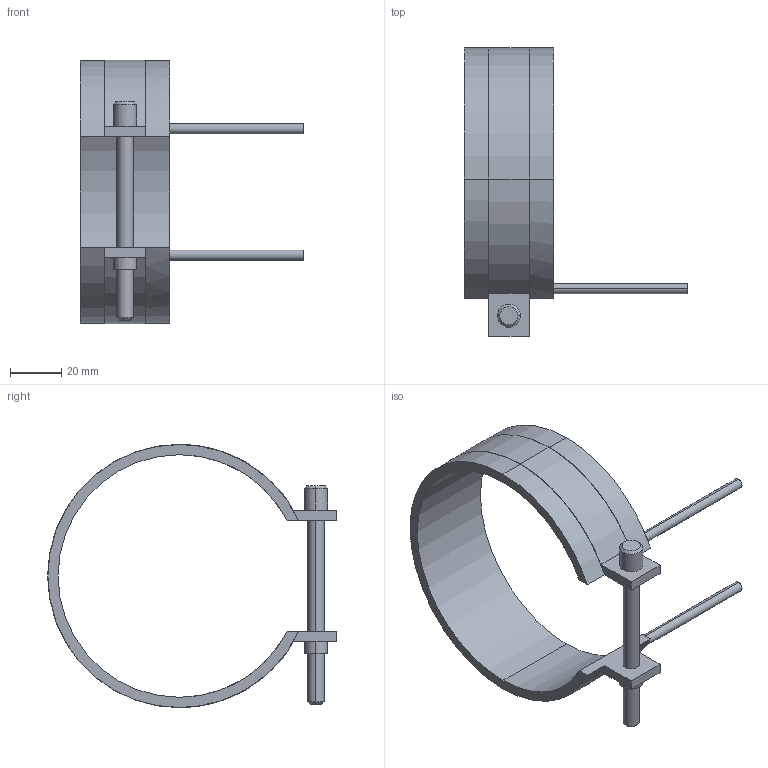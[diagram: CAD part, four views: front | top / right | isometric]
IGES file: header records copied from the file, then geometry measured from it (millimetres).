
Start section: START RECORD GO HERE.
Global section: file name: 14095035.igs; native system: DASSAULT SYSTEMES CATIA V5 R20 - www.3ds.com; preprocessor: CATIA Version 5 Release 20 ; author: Utente; organization: NB04-ASUS; date: 20210406.180515; units: millimetre
Bounding box: 87.5 x 113.1 x 103.2 mm (x, y, z)
Surface area: 25260.6 mm2 (no closed solid volume)
Topology: 0 solids, 0 shells, 45 faces, 232 edges, 232 vertices
Faces by surface type: revolution 28, plane 17
